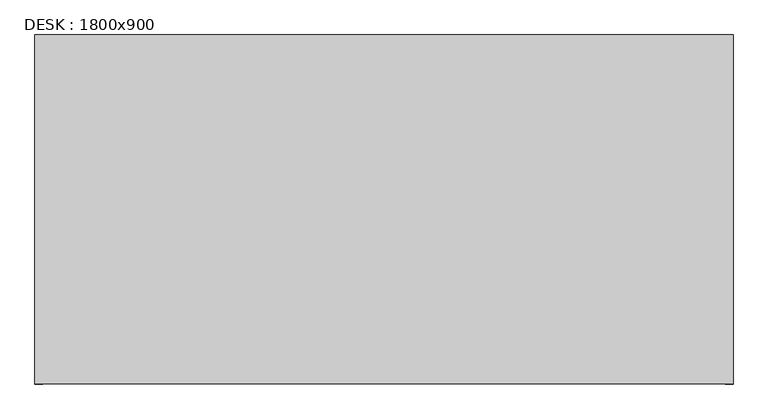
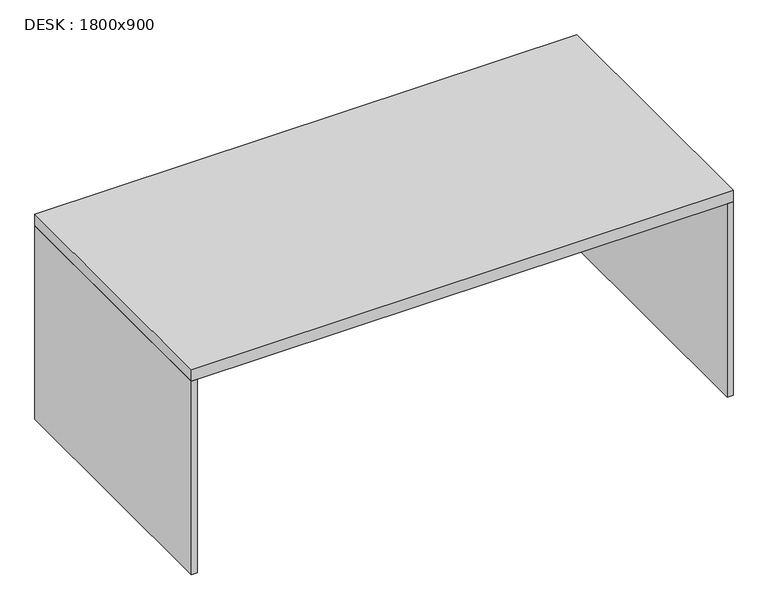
"""IFC4 building model written with IfcOpenShell, lengths in millimetres: furniture geometry, DESK : 1800x900."""

from ifc_helpers import new_model, si_unit, frame, origin, origin_with_axes, place, context, project, spatial, polyline, outline, extrude, source, transform, mapped, element, save


def desk_1800x900_c8c0ca62(model_context):
    return source(origin(), model_context, "Body", "SweptSolid", [
        extrude(outline(polyline([(-800.0, 300.0), (1000.0, 300.0), (1000.0, -600.0), (-800.0, -600.0), (-800.0, 300.0)])), frame((0.0, 0.0, 680.0), z_axis=(0.0, 0.0, 1.0), x_axis=(1.0, 0.0, 0.0)), (0.0, 0.0, 1.0), 40.0),
        extrude(outline(polyline([(-780.0, -600.0), (-800.0, -600.0), (-800.0, 300.0), (-780.0, 300.0), (-780.0, -600.0)])), origin_with_axes(), (0.0, 0.0, 1.0), 680.0),
        extrude(outline(polyline([(980.0, -600.0), (980.0, 300.0), (1000.0, 300.0), (1000.0, -600.0), (980.0, -600.0)])), origin_with_axes(), (0.0, 0.0, 1.0), 680.0),
    ])


if __name__ == "__main__":
    model = new_model("IFC4")
    model_context = context("Model", 3, world=origin())
    ifc_project = project(units=[si_unit("LENGTHUNIT", "METRE", prefix="MILLI")], contexts=[model_context])
    site = spatial("IfcSite", under=ifc_project)
    building = spatial("IfcBuilding", under=site)
    placement = place(None, origin())
    desk_1800x900_shape = desk_1800x900_c8c0ca62(model_context)
    element("IfcFurniture", 1, ObjectType="DESK : 1800x900", at=placement, inside=building, context=model_context, shape_type="MappedRepresentation", body=[
        mapped(desk_1800x900_shape, transform((0.0, 0.0, 0.0), x_axis=(1.0, 0.0, 0.0), y_axis=(0.0, 1.0, 0.0), z_axis=(0.0, 0.0, 1.0))),
    ])
    save(model, "model.ifc")
